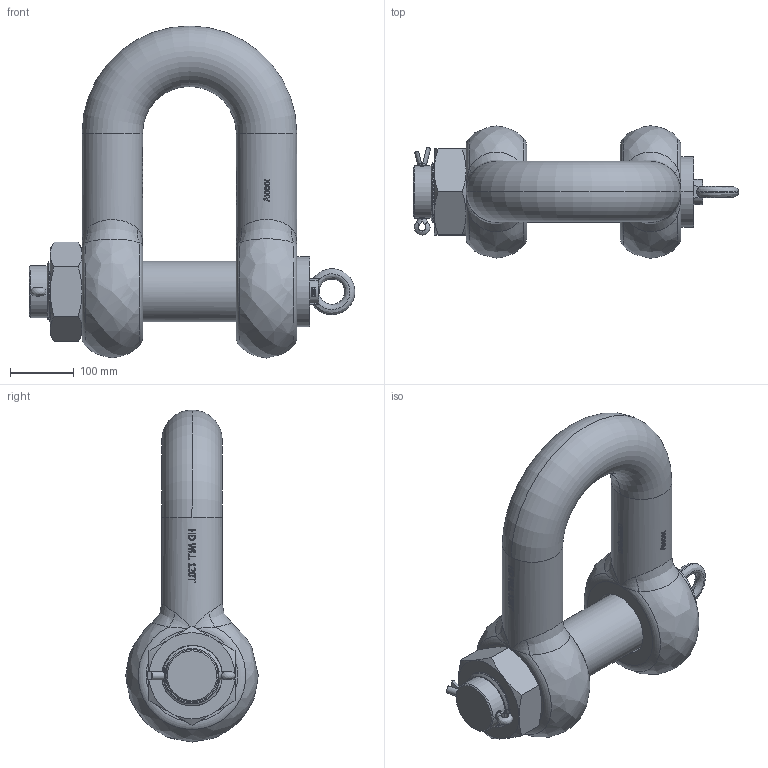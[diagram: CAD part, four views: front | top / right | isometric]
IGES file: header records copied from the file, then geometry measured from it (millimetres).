
Global section: file name: No Iges File Name specified; native system: Autodesk Inventor 2009; preprocessor: AutoDesk Inventor Iges Exporter R2009; author: Jack; date: 20091209.213643; units: millimetre
Bounding box: 511 x 208 x 521 mm (x, y, z)
Volume: 12385304.8 mm3; surface area: 685202.7 mm2
Topology: 5 solids, 5 shells, 780 faces, 2121 edges, 1384 vertices
Faces by surface type: plane 408, bspline 209, cylinder 99, revolution 34, cone 20, torus 10
Full cylindrical faces by diameter (mm): 95 x13
